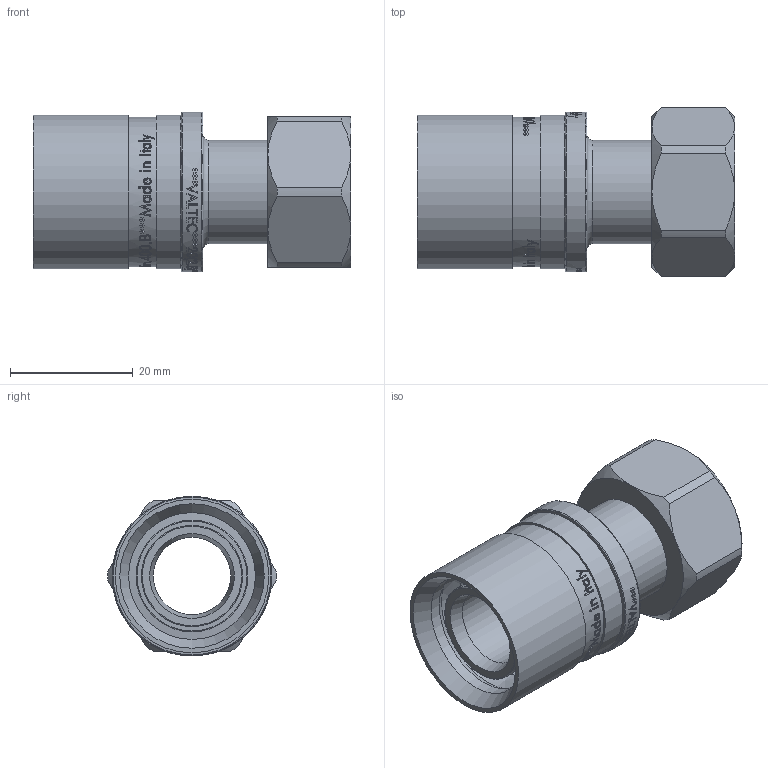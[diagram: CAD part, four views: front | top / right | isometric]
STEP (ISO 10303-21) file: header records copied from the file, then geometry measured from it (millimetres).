
FILE_DESCRIPTION(/* description */ (''),/* implementation_level */ '2;1');
FILE_NAME(/* name */ 'F:\Артём\00000\Работа удаленка\Аксеальные фитинги\VTm.422.BG.002004.stp',/* time_stamp */ '2021-01-26T11:17:14+03:00',/* author */ ('almis'),/* organization */ (''),/* preprocessor_version */ 'ST-DEVELOPER v18',/* originating_system */ 'Autodesk Inventor 2020',/* authorisation */ '');
FILE_SCHEMA (('AUTOMOTIVE_DESIGN { 1 0 10303 214 3 1 1 }'));
Length unit declared in the file: millimetre
Products named in the file (1): VTm.403.BG.001616
Bounding box: 51.71 x 27.5 x 26 mm (x, y, z)
Volume: 11551 mm3; surface area: 11771.8 mm2
Topology: 2 solids, 2 shells, 1311 faces, 3588 edges, 2407 vertices
Faces by surface type: bspline 704, plane 406, cylinder 153, torus 25, cone 23
Full cylindrical faces by diameter (mm): 12.6 x1, 15.1 x1, 15.7 x5, 16.5 x4, 16.9 x2, 17 x1, 18.2 x1, 18.6 x5, 20.65 x2, 22.2 x6, 24.3 x1, 25 x2, 26 x1
Entity records: 56049 total; most frequent: CARTESIAN_POINT 27059, ORIENTED_EDGE 7176, DIRECTION 3967, EDGE_CURVE 3588, VERTEX_POINT 2407, LINE 1505, VECTOR 1505, EDGE_LOOP 1441
